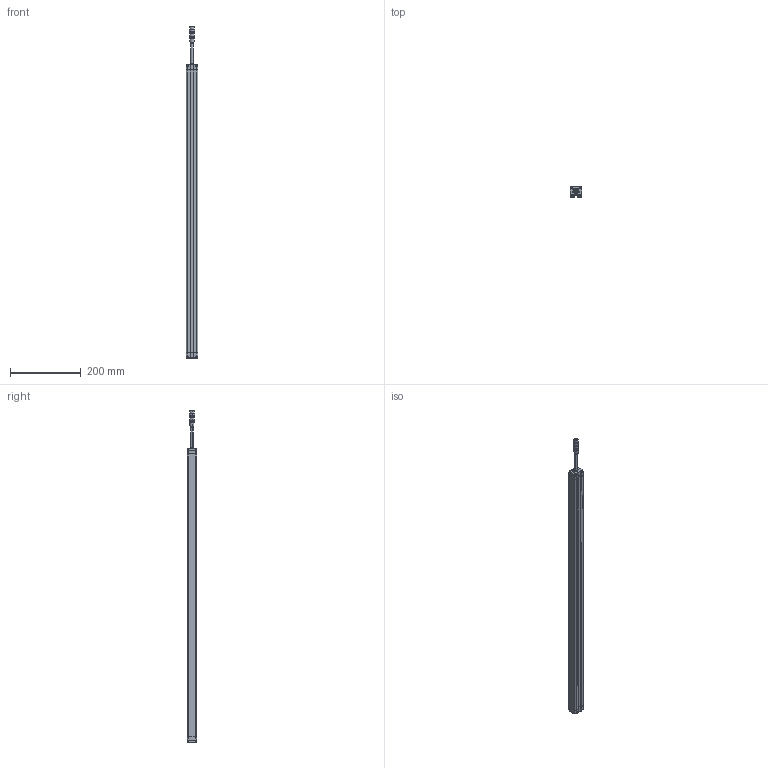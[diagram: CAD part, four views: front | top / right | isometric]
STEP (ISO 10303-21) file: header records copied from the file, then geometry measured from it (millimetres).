
FILE_DESCRIPTION((''),'2;1');
FILE_NAME('SMT1-CGQ_ASM','2025-08-08T08:31:25',('Administrator'),(''),'CREO PARAMETRIC BY PTC INC, 2016510','CREO PARAMETRIC BY PTC INC, 2016510','');
FILE_SCHEMA(('CONFIG_CONTROL_DESIGN'));
Length unit declared in the file: millimetre
Products named in the file (7): SMT1-XINGCAI-V1; SMT1-SDG-V1; SMT1-XDG-V1; M12-CHATOU; ST3X18; CT4-LVGUANGBAN; SMT1-CGQ_ASM
Assembly tree (13 placements, depth 2):
  SMT1-CGQ_ASM
    SMT1-XINGCAI-V1
    SMT1-SDG-V1
    SMT1-XDG-V1
    M12-CHATOU
    ST3X18  x8
    CT4-LVGUANGBAN
Bounding box: 33 x 28.02 x 939.5 mm (x, y, z)
Volume: 645147.4 mm3; surface area: 209460.5 mm2
Topology: 13 solids, 13 shells, 712 faces, 1868 edges, 1200 vertices
Faces by surface type: plane 382, cylinder 184, extrusion 86, sphere 32, cone 20, bspline 8
Entity records: 18128 total; most frequent: CARTESIAN_POINT 4347, ORIENTED_EDGE 2916, DIRECTION 2580, EDGE_CURVE 1458, VECTOR 1036, VERTEX_POINT 955, LINE 950, AXIS2_PLACEMENT_3D 772
